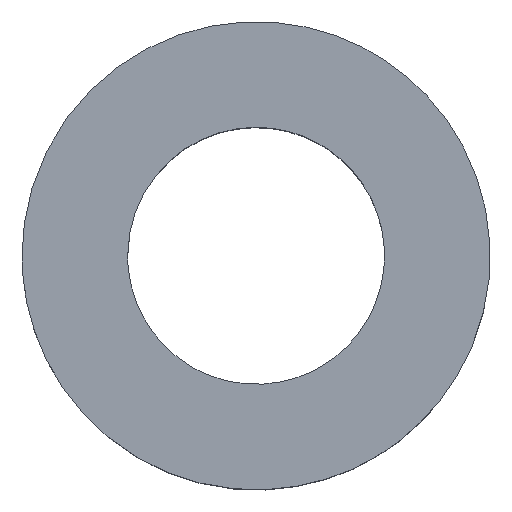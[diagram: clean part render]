
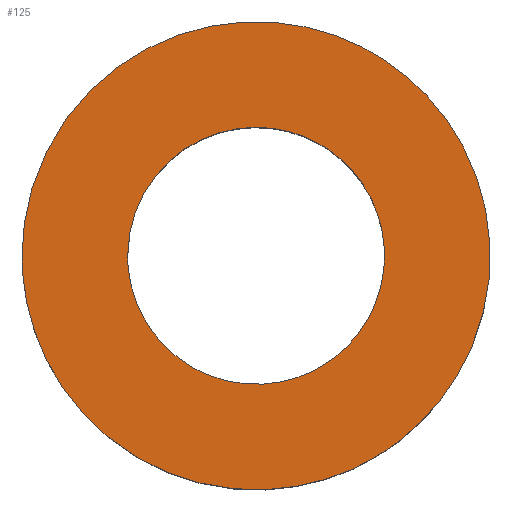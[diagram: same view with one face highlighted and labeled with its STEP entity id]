
A CAD part, top view. The second image highlights one B-rep face of the part: STEP entity #125.
In plain terms, the highlighted free-form (B-spline) face has degree [1, 1] with [2, 2] control points.
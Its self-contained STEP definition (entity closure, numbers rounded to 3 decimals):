
#92 = EDGE_CURVE('',#93,#93,#95,.T.);
#93 = VERTEX_POINT('',#94);
#94 = CARTESIAN_POINT('',(-4.1,0.,3.));
#95 = ( BOUNDED_CURVE() B_SPLINE_CURVE(2,(#96,#97,#98,#99,#100,#101,#102
),.UNSPECIFIED.,.T.,.F.) B_SPLINE_CURVE_WITH_KNOTS((1,2,2,2,2,1),(
    -2.094,0.,2.094,4.189,6.283,
8.378),.UNSPECIFIED.) CURVE() GEOMETRIC_REPRESENTATION_ITEM() 
RATIONAL_B_SPLINE_CURVE((1.,0.5,1.,0.5,1.,0.5,1.)) REPRESENTATION_ITEM(
  '') );
#96 = CARTESIAN_POINT('',(-4.1,0.,3.));
#97 = CARTESIAN_POINT('',(-4.1,7.101,3.));
#98 = CARTESIAN_POINT('',(2.05,3.551,3.));
#99 = CARTESIAN_POINT('',(8.2,0.,3.));
#100 = CARTESIAN_POINT('',(2.05,-3.551,3.));
#101 = CARTESIAN_POINT('',(-4.1,-7.101,3.));
#102 = CARTESIAN_POINT('',(-4.1,0.,3.));
#125 = ADVANCED_FACE('',(#126,#140),#143,.T.);
#126 = FACE_BOUND('',#127,.T.);
#127 = EDGE_LOOP('',(#128));
#128 = ORIENTED_EDGE('',*,*,#129,.T.);
#129 = EDGE_CURVE('',#130,#130,#132,.T.);
#130 = VERTEX_POINT('',#131);
#131 = CARTESIAN_POINT('',(-2.25,0.,3.));
#132 = ( BOUNDED_CURVE() B_SPLINE_CURVE(2,(#133,#134,#135,#136,#137,#138
,#139),.UNSPECIFIED.,.T.,.F.) B_SPLINE_CURVE_WITH_KNOTS((1,2,2,2,2,1),(
    -2.094,0.,2.094,4.189,6.283,
8.378),.UNSPECIFIED.) CURVE() GEOMETRIC_REPRESENTATION_ITEM() 
RATIONAL_B_SPLINE_CURVE((1.,0.5,1.,0.5,1.,0.5,1.)) REPRESENTATION_ITEM(
  '') );
#133 = CARTESIAN_POINT('',(-2.25,0.,3.));
#134 = CARTESIAN_POINT('',(-2.25,3.897,3.));
#135 = CARTESIAN_POINT('',(1.125,1.949,3.));
#136 = CARTESIAN_POINT('',(4.5,0.,3.));
#137 = CARTESIAN_POINT('',(1.125,-1.949,3.));
#138 = CARTESIAN_POINT('',(-2.25,-3.897,3.));
#139 = CARTESIAN_POINT('',(-2.25,0.,3.));
#140 = FACE_BOUND('',#141,.T.);
#141 = EDGE_LOOP('',(#142));
#142 = ORIENTED_EDGE('',*,*,#92,.F.);
#143 = B_SPLINE_SURFACE_WITH_KNOTS('',1,1,(
    (#144,#145)
    ,(#146,#147
    )),.UNSPECIFIED.,.F.,.F.,.F.,(2,2),(2,2),(0.,8.2),(-4.1,4.1),
  .PIECEWISE_BEZIER_KNOTS.);
#144 = CARTESIAN_POINT('',(-4.1,-4.1,3.));
#145 = CARTESIAN_POINT('',(-4.1,4.1,3.));
#146 = CARTESIAN_POINT('',(4.1,-4.1,3.));
#147 = CARTESIAN_POINT('',(4.1,4.1,3.));
